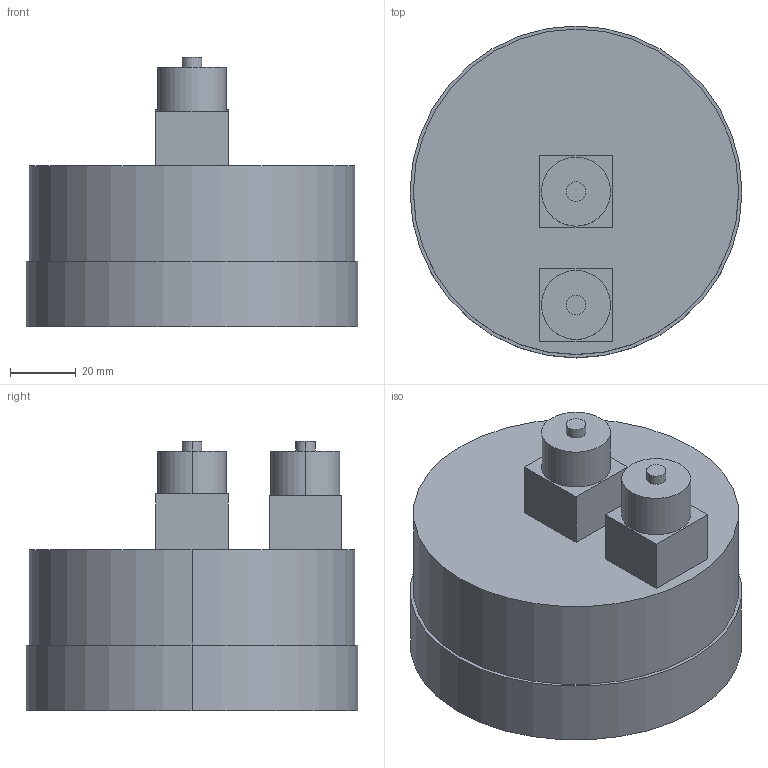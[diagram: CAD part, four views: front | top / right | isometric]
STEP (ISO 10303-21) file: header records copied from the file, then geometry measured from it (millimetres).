
FILE_DESCRIPTION (( 'STEP AP214' ), '1' );
FILE_NAME ('Manometr_puszkowy_roznicowy_x_0_3D_AFRISO.STEP', '2022-12-15T13:22:31', ( '' ), ( '' ), 'SwSTEP 2.0', 'SolidWorks 2022', '' );
FILE_SCHEMA (( 'AUTOMOTIVE_DESIGN' ));
Length unit declared in the file: millimetre
Products named in the file (1): Manometr_puszkowy_roznicowy_x_0_3D_AFRISO
Bounding box: 101 x 101 x 82 mm (x, y, z)
Volume: 409032.1 mm3; surface area: 36198.6 mm2
Topology: 1 solids, 1 shells, 29 faces, 60 edges, 40 vertices
Faces by surface type: plane 17, cylinder 12
Entity records: 812 total; most frequent: DIRECTION 144, CARTESIAN_POINT 130, ORIENTED_EDGE 120, EDGE_CURVE 60, AXIS2_PLACEMENT_3D 54, VERTEX_POINT 40, VECTOR 36, EDGE_LOOP 36
